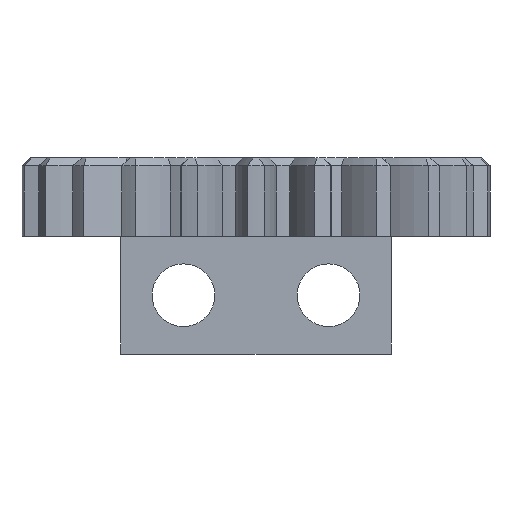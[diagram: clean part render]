
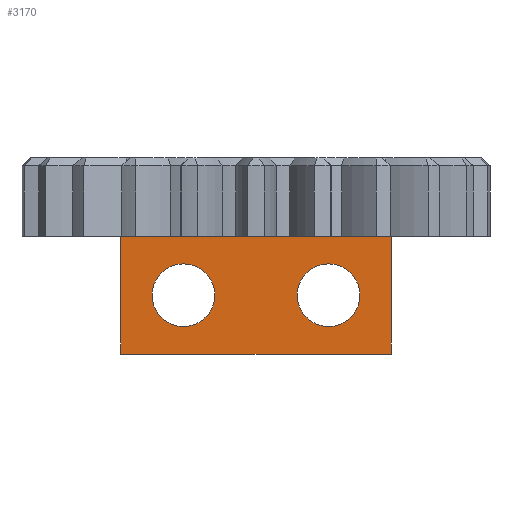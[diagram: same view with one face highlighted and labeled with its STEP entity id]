
A CAD part, front view. The second image highlights one B-rep face of the part: STEP entity #3170.
In plain terms, the highlighted planar face has unit normal (0, -1, 0).
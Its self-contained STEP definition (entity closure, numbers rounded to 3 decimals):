
#23=FACE_BOUND('',#739,.T.);
#24=FACE_BOUND('',#740,.T.);
#37=PLANE('',#3668);
#108=LINE('',#5923,#234);
#113=LINE('',#5941,#239);
#120=LINE('',#5954,#246);
#121=LINE('',#5956,#247);
#234=VECTOR('',#4623,10.);
#239=VECTOR('',#4642,10.);
#246=VECTOR('',#4655,10.);
#247=VECTOR('',#4658,10.);
#534=FACE_OUTER_BOUND('',#738,.T.);
#738=EDGE_LOOP('',(#2743,#2744,#2745,#2746));
#739=EDGE_LOOP('',(#2747));
#740=EDGE_LOOP('',(#2748));
#1150=CIRCLE('',#3660,1.6);
#1152=CIRCLE('',#3663,1.6);
#1441=VERTEX_POINT('',#5920);
#1442=VERTEX_POINT('',#5922);
#1445=VERTEX_POINT('',#5930);
#1447=VERTEX_POINT('',#5936);
#1448=VERTEX_POINT('',#5940);
#1451=VERTEX_POINT('',#5952);
#1884=EDGE_CURVE('',#1441,#1442,#108,.T.);
#1889=EDGE_CURVE('',#1445,#1445,#1150,.T.);
#1892=EDGE_CURVE('',#1447,#1447,#1152,.T.);
#1893=EDGE_CURVE('',#1442,#1448,#113,.T.);
#1900=EDGE_CURVE('',#1441,#1451,#120,.T.);
#1901=EDGE_CURVE('',#1448,#1451,#121,.T.);
#2743=ORIENTED_EDGE('',*,*,#1884,.F.);
#2744=ORIENTED_EDGE('',*,*,#1900,.T.);
#2745=ORIENTED_EDGE('',*,*,#1901,.F.);
#2746=ORIENTED_EDGE('',*,*,#1893,.F.);
#2747=ORIENTED_EDGE('',*,*,#1889,.T.);
#2748=ORIENTED_EDGE('',*,*,#1892,.T.);
#3170=ADVANCED_FACE('',(#534,#23,#24),#37,.T.);
#3660=AXIS2_PLACEMENT_3D('',#5932,#4631,#4632);
#3663=AXIS2_PLACEMENT_3D('',#5938,#4638,#4639);
#3668=AXIS2_PLACEMENT_3D('',#5955,#4656,#4657);
#4623=DIRECTION('',(1.,0.,0.));
#4631=DIRECTION('center_axis',(0.,1.,0.));
#4632=DIRECTION('ref_axis',(-1.,0.,0.));
#4638=DIRECTION('center_axis',(0.,1.,0.));
#4639=DIRECTION('ref_axis',(-1.,0.,0.));
#4642=DIRECTION('',(0.,0.,-1.));
#4655=DIRECTION('',(0.,0.,-1.));
#4656=DIRECTION('center_axis',(0.,-1.,0.));
#4657=DIRECTION('ref_axis',(-1.,0.,0.));
#4658=DIRECTION('',(-1.,0.,0.));
#5920=CARTESIAN_POINT('',(-6.9,-4.5,0.));
#5922=CARTESIAN_POINT('',(6.9,-4.5,0.));
#5923=CARTESIAN_POINT('',(3.45,-4.5,0.));
#5930=CARTESIAN_POINT('',(5.3,-4.5,-3.));
#5932=CARTESIAN_POINT('Origin',(3.7,-4.5,-3.));
#5936=CARTESIAN_POINT('',(-2.1,-4.5,-3.));
#5938=CARTESIAN_POINT('Origin',(-3.7,-4.5,-3.));
#5940=CARTESIAN_POINT('',(6.9,-4.5,-6.));
#5941=CARTESIAN_POINT('',(6.9,-4.5,0.));
#5952=CARTESIAN_POINT('',(-6.9,-4.5,-6.));
#5954=CARTESIAN_POINT('',(-6.9,-4.5,0.));
#5955=CARTESIAN_POINT('Origin',(6.9,-4.5,0.));
#5956=CARTESIAN_POINT('',(-6.9,-4.5,-6.));
